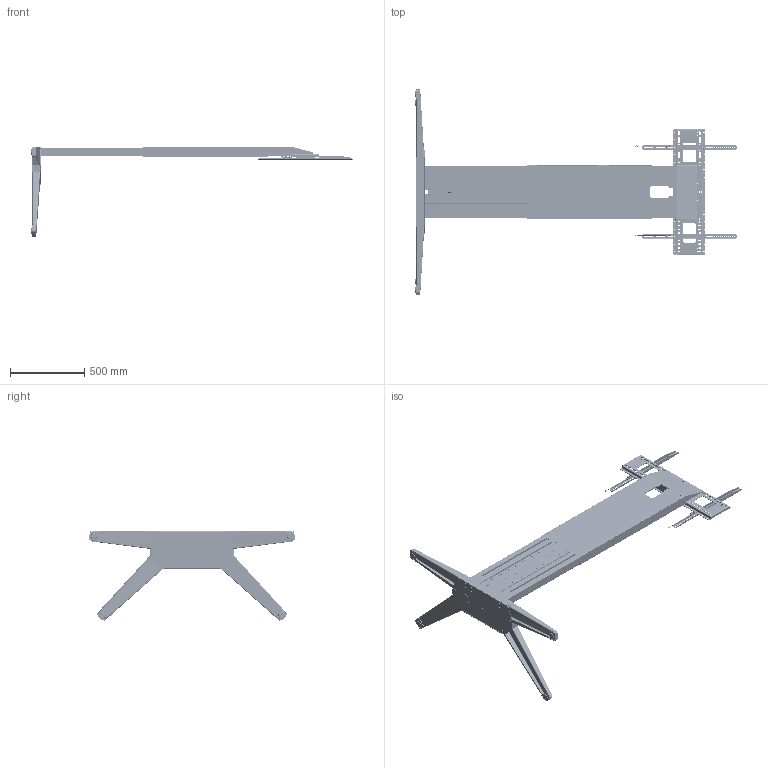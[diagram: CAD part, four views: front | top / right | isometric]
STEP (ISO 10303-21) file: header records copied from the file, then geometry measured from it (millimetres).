
FILE_DESCRIPTION((''),'2;1');
FILE_NAME('F51_FREESTANDING_MAX_ASM_ASM_ASM','2022-02-11T13:31:50',('103247'),('捷昌驱动'),'CREO PARAMETRIC BY PTC INC, 2018100','CREO PARAMETRIC BY PTC INC, 2018100','');
FILE_SCHEMA(('CONFIG_CONTROL_DESIGN'));
Products named in the file (92): RR05-304_TOP_BRACKET_42_4_1; JCSP-0722_1_1_2_1_1; JS36DR-2331_AF0_1_1; JS36DR-2330_ASM_1_ASM_1_ASM; JS36DR-1576_1_1; JS36DR-2329_ASM_1_ASM_1_ASM; JS36DR-2329_ASM_ASM_1_ASM; RR05-251_LEG_TOP4_ASM_27_ASM_1__ASM; RR05-251_LEG_TOP5_ASM_12_ASM_1__ASM; RR05-306_MONITOR_BRACKET_26_15_; RR05-204_TOP_CAP_9_9_1; ASM0001_ASM_2_ASM_1_ASM; RR05-203_REAR_TOP_COVER_16_7_1; RR05-201_FRONT_TOP_COVER_25_3_1; NS1_3_6_ASM_1_ASM_1_1_2_3_ASM_2; NS1_3_6_ASM_1_1_ASM_1_ASM_1_A_1_ASM; 0000210278_ASM_1_ASM_1_ASM_1_1__ASM; 0000210276_ASM_1_ASM_1_ASM_1_1__ASM; JCB35NS1-A_ASM_1_ASM_1_1_ASM_1__ASM; JC35TS-1804_1_1_1_8_1_1; ______17135_1_1_1_1_1_1_1; ______17135_1_2_1_1_1_1_1; ______17135_1_3_1_1_1_1_1; ______17135_1_4_1_1_1_1_1; ______17135_1_5_1_1_1_1_1; ______17135_1_ASM_1_1_ASM_1_ASM_ASM; JC35TS-1807_1_ASM_1_1_ASM_1_ASM_ASM; JC35TS-1806_1_1_1_1_1_1; JC35TS-1805_1_1_1_1_1_1; JC35TF-0137_1_1_1_2_1_1; JCSP-0412_1_1_1_1_1_1; JCSP-0474_1_1_1_1_1_1; JC35TS-T191184_ASM_1_ASM_1_1_AS_ASM; JC35TS-T215007_ASM_1_ASM_1_1_AS_ASM; 2_ASM_1_1_ASM_1_ASM_1_ASM_1_ASM; RR05-300_MONITOR_CHASSIS_ASM_12_ASM; RR05-250_TOP_ASM_ASM_61_ASM_5_A_ASM; JC35TS-1668_1_1_5_1_1; RR05-256-2_BRACKET_SCREWS_8_1_1; RR05-205_REAR_BOTTOM_COVER_26_7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
Assembly tree (134 placements, depth 13):
  F51_FREESTANDING_MAX_ASM_ASM_ASM
    F50_FREESTANDING_MAX_ASM_ASM_1_ASM
      F50_FREESTANDING_MAX_ASM_1_ASM__ASM
        RR05-150_MAIN_ASM_ASM_103_ASM_1_ASM
          RR05-250_TOP_ASM_ASM_61_ASM_5_A_ASM
            RR05-251_LEG_TOP5_ASM_12_ASM_1__ASM
              RR05-251_LEG_TOP4_ASM_27_ASM_1__ASM
                RR05-304_TOP_BRACKET_42_4_1
                JCSP-0722_1_1_2_1_1  x8
                JS36DR-2329_ASM_ASM_1_ASM  x2
                  JS36DR-2329_ASM_1_ASM_1_ASM
            ASM0001_ASM_2_ASM_1_ASM
              RR05-306_MONITOR_BRACKET_26_15_
              RR05-204_TOP_CAP_9_9_1
            RR05-203_REAR_TOP_COVER_16_7_1
            RR05-201_FRONT_TOP_COVER_25_3_1
            RR05-300_MONITOR_CHASSIS_ASM_12_ASM
              2_ASM_1_1_ASM_1_ASM_1_ASM_1_ASM
                JC35TS-T215007_ASM_1_ASM_1_1_AS_ASM
                  JCB35NS1-A_ASM_1_ASM_1_1_ASM_1__ASM
                  JC35TS-1804_1_1_1_8_1_1
                  JC35TS-T191184_ASM_1_ASM_1_1_AS_ASM  x2
          RR05-252_LEG_BOT_ASM_65_ASM_3_A_ASM
            JC35TS-1668_1_1_5_1_1
            RR05-256-2_BRACKET_SCREWS_8_1_1  x6
            RR05-205_REAR_BOTTOM_COVER_26_7
            RR05-202_CONTROLLER_ASM_ASM_7_A_ASM
              RR05-202-1_CONTROLLER_3_1_1
              RR05-256-2_BRACKET_SCREWS_8_1_1  x2
            ASM0001_ASM_1_ASM
              JS36DR-2342_ASM_1_1_ASM_1_ASM
                JS36DR-2340_ASM_1_1_ASM_1_ASM
                  JS36DR-2341_ASM_1_1_ASM_1_ASM
                  JC35PJ-0476_1_1_1  x2
                JC35TS-0166_1_1_1
            JS36DR-2339_ASM_ASM_1_ASM
              JS36DR-2339_ASM_1_ASM_1_ASM
                JS36DR-2338_ASM_1_ASM_1_ASM
                  JS36DR-2336_ASM_1_ASM_1_ASM
                  JC35PJ-0476_1_1_2_1  x2
                JC35TS-0166_1_1_2_1
    __ASM
      000_ASM_1_ASM
        RR05-110_BASE_ASM_ASM_ASM_4_A_1_ASM
          RR05-110_BASE_ASM_ASM_252_ASM_1_ASM
            RR05-200_BASE_HUB_ASM_96_ASM__1_ASM
              RR05-200-1_BASE_HUB_BOT_ASM_6_1_ASM
                RR05-200-1_BASE_HUB_BOT_112_2_2
                RR05-200-1-M_BASE_HUB_MID_61__1
              RR05-200-2_BASE_HUB_TOP_ASM_4_1_ASM
                RR05-200-2_BASE_HUB_TOP_93_1_1
                PSM-UNTHREADED-STANDOFF_14_1_1  x8
            RR05-220_LEG_FRONT_LEFT_ASM_8_1_ASM
              RR05-220-1_LEG_FRONT_LEFT_BOT_A_ASM
                RR05-220-1_LEG_FRONT_LEFT_BOT_3
                PSM-P-CLS-M6-1_6_1_1  x3
                JCSP-1755_1_1_9_1_1
              RR05-220-2_LEG_FRONT_LEFT_TOP_1
            RR05-230_LEG_BACK_LEFT_ASM_54_1_ASM
              RR05-230-1_LEG_BACK_LEFT_BOT_AS_ASM
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Bounding box: 2159.53 x 1380.36 x 607.88 mm (x, y, z)
Volume: 6455506 mm3; surface area: 7271332.9 mm2
Topology: 100 solids, 183 shells, 5703 faces, 15806 edges, 10451 vertices
Faces by surface type: plane 2624, cylinder 2223, bspline 341, cone 274, torus 135, extrusion 100, sphere 6
Entity records: 174960 total; most frequent: CARTESIAN_POINT 67024, ORIENTED_EDGE 22366, DIRECTION 21596, EDGE_CURVE 11306, VERTEX_POINT 7458, AXIS2_PLACEMENT_3D 7278, VECTOR 7040, LINE 6942
